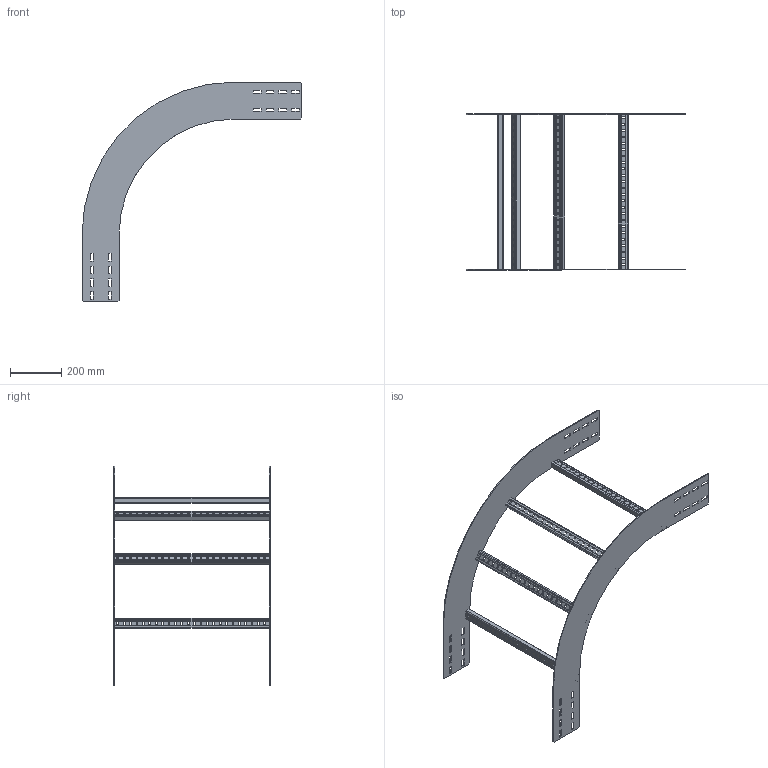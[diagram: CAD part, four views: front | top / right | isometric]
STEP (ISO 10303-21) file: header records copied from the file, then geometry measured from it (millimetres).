
FILE_DESCRIPTION(('Creo Elements/Direct Modeling STEP Export'),'2;1');
FILE_NAME('WPOR15-60-90-45.stp','2016-06-02T11:57:04',(''),(''),'PTC Creo Elements/Direct Modeling STEP processor for AP214 (Solid Model)','PTC Creo Elements/Direct Modeling 19.0C 15-Aug-2015 (C) Parametric Technology GmbH','');
FILE_SCHEMA(('AUTOMOTIVE_DESIGN { 1 0 10303 214 1 1 1 1 }'));
Length unit declared in the file: millimetre
Products named in the file (3): WPIBG150_450.1; WPBS60.1.1.1.1; WPOR15-60-90-45
Assembly tree (6 placements, depth 2):
  WPOR15-60-90-45
    WPBS60.1.1.1.1  x4
    WPIBG150_450.1  x2
Bounding box: 860 x 611 x 860 mm (x, y, z)
Volume: 1494879.1 mm3; surface area: 1272209.1 mm2
Topology: 6 solids, 6 shells, 700 faces, 2064 edges, 1376 vertices
Faces by surface type: plane 432, cylinder 268
Entity records: 7372 total; most frequent: CARTESIAN_POINT 1270, ORIENTED_EDGE 1260, DIRECTION 1206, EDGE_CURVE 630, VECTOR 494, LINE 494, VERTEX_POINT 420, AXIS2_PLACEMENT_3D 356
